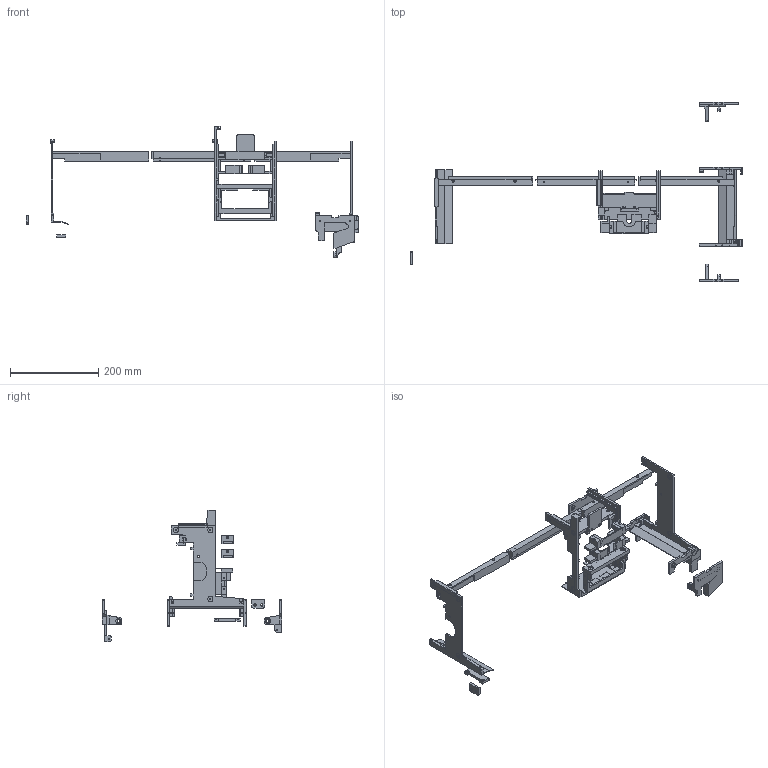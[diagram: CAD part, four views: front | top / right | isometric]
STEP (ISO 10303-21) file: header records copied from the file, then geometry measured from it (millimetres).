
FILE_DESCRIPTION(/* description */ (''),/* implementation_level */ '2;1');
FILE_NAME(/* name */ 'vasto_dust_covers.step',/* time_stamp */ '2026-07-31T14:57:42-07:00',/* author */ (''),/* organization */ (''),/* preprocessor_version */ 'ST-DEVELOPER v20.1',/* originating_system */ 'Autodesk Translation Framework v15.8.0.0',/* authorisation */ '');
FILE_SCHEMA (('AUTOMOTIVE_DESIGN { 1 0 10303 214 3 1 1 }'));
Length unit declared in the file: millimetre
Products named in the file (1): Dust Covers
Bounding box: 751 x 405 x 298 mm (x, y, z)
Volume: 622601 mm3; surface area: 344043.9 mm2
Topology: 29 solids, 29 shells, 1132 faces, 2972 edges, 1970 vertices
Faces by surface type: plane 829, cylinder 301, cone 2
Full cylindrical faces by diameter (mm): 2 x24, 3 x1, 3.2 x57, 3.5 x3, 4.2 x4, 5.3 x2, 6 x10, 8.5 x2, 12 x32
Entity records: 34986 total; most frequent: CARTESIAN_POINT 6075, ORIENTED_EDGE 5944, DIRECTION 5848, EDGE_CURVE 2972, LINE 2362, VECTOR 2362, VERTEX_POINT 1970, AXIS2_PLACEMENT_3D 1743
